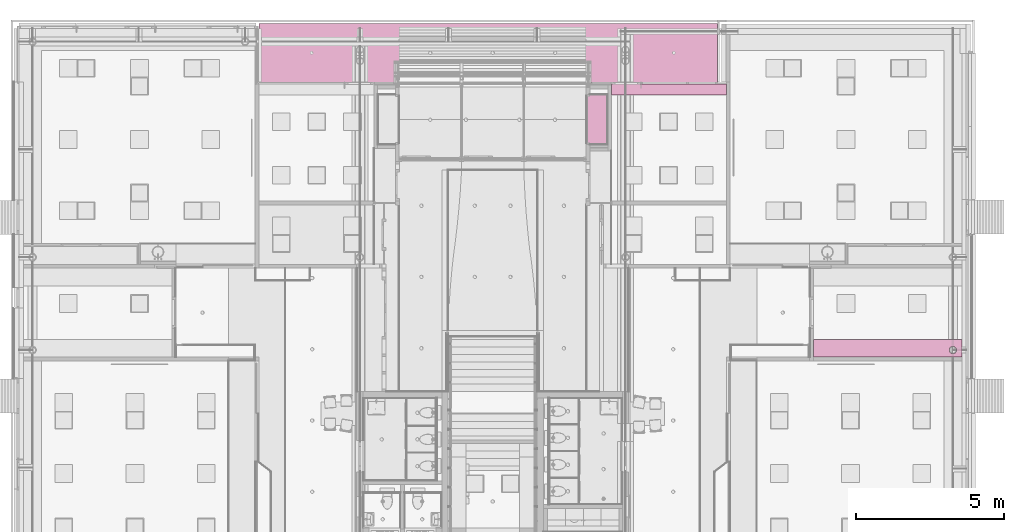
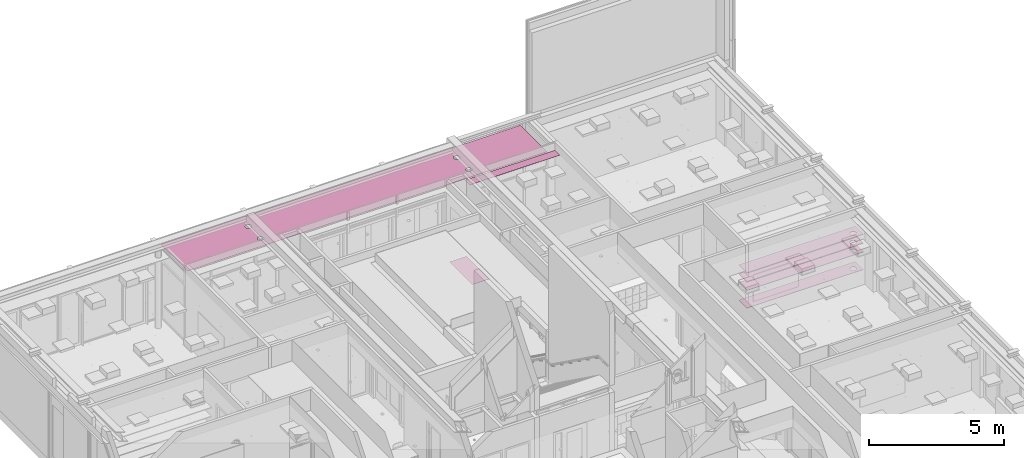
# One storey, part 328 of 347: 7 furnishings.
"""IFC2X3 building model written with IfcOpenShell, lengths in millimetres."""

import ifcopenshell
import ifcopenshell.guid

model = None  # the IFC model being written
_history = None  # IfcOwnerHistory: only IFC2X3 demands one
_inside = {}  # id of a spatial element -> (the spatial element, [elements in it])
_under = {}  # id of a project, library or spatial element -> (it, [spatial elements below it])
_declared = {}  # id of a project -> (the project, [libraries it declares])
_typed = {}  # id of a type object -> (the type object, [elements of that type])
_made_of = {}  # id of a material, layer set ... -> (it, [elements and type objects made of it])


def new_model(schema):
    """Start an empty IFC model of exactly this schema.

    Asked for "IFC4X3", IfcOpenShell would pick the latest addendum, in which some entities
    have other attributes; the version numbers below select the first issue.
    IFC2X3 requires an IfcOwnerHistory on every rooted entity: one is made here for all.
    """
    global model, _history
    if schema == "IFC4X3":
        model = ifcopenshell.file(schema_version=(4, 3, 0, 0))
    else:
        model = ifcopenshell.file(schema=schema)
    _inside.clear()
    _under.clear()
    _declared.clear()
    _typed.clear()
    _made_of.clear()
    _history = None
    if model.schema == "IFC2X3":
        org = make("IfcOrganization", Name="unknown")
        user = make(
            "IfcPersonAndOrganization",
            ThePerson=make("IfcPerson", FamilyName="unknown"),
            TheOrganization=org,
        )
        app = make(
            "IfcApplication",
            ApplicationDeveloper=org,
            Version="unknown",
            ApplicationFullName="unknown",
            ApplicationIdentifier="unknown",
        )
        _history = make(
            "IfcOwnerHistory",
            OwningUser=user,
            OwningApplication=app,
            ChangeAction="ADDED",
            CreationDate=0,
        )
    return model


def make(cls, **values):
    """One entity of the class cls with the attributes given. An attribute that is None is left unset."""
    return model.create_entity(
        cls, **{name: value for name, value in values.items() if value is not None}
    )


def entity(cls, *values):
    """Any entity or typed value of the class cls, its attributes in the order of the schema. None: left unset."""
    e = model.create_entity(cls)
    for i, value in enumerate(values):
        if value is not None:
            e[i] = value
    return e


def rooted(cls, **values):
    """An entity with a GlobalId (a new one), such as an element, a storey or a relation."""
    return make(cls, GlobalId=ifcopenshell.guid.new(), OwnerHistory=_history, **values)


def si_unit(unit_type, name, prefix=None):
    """IfcSIUnit, for example si_unit("LENGTHUNIT", "METRE", prefix="MILLI")."""
    return make("IfcSIUnit", UnitType=unit_type, Prefix=prefix, Name=name)


def converted_unit(unit_type, name, factor, base, dimensions=None, offset=None):
    """IfcConversionBasedUnit, such as the inch: factor (a typed value) times the base unit."""
    return make(
        "IfcConversionBasedUnit"
        if offset is None
        else "IfcConversionBasedUnitWithOffset",
        ConversionOffset=offset,
        Dimensions=None
        if dimensions is None
        else entity("IfcDimensionalExponents", *dimensions),
        UnitType=unit_type,
        Name=name,
        ConversionFactor=make(
            "IfcMeasureWithUnit", ValueComponent=factor, UnitComponent=base
        ),
    )


def derived_unit(unit_type, elements):
    """IfcDerivedUnit: a product of units, each with its exponent."""
    return make(
        "IfcDerivedUnit",
        Elements=[
            make("IfcDerivedUnitElement", Unit=unit, Exponent=power)
            for unit, power in elements
        ],
        UnitType=unit_type,
    )


def money_unit(currency):
    """IfcMonetaryUnit."""
    return make("IfcMonetaryUnit", Currency=currency)


def assignment(units):
    """IfcUnitAssignment: the units of a project."""
    return None if units is None else make("IfcUnitAssignment", Units=units)


def point(xyz):
    """IfcCartesianPoint."""
    return None if xyz is None else make("IfcCartesianPoint", Coordinates=xyz)


def direction(xyz):
    """IfcDirection."""
    return None if xyz is None else make("IfcDirection", DirectionRatios=xyz)


def frame(location, z_axis=None, x_axis=None):
    """IfcAxis2Placement3D, a coordinate frame: its origin and axes. An axis left out is left unset."""
    return make(
        "IfcAxis2Placement3D",
        Location=point(location),
        Axis=direction(z_axis),
        RefDirection=direction(x_axis),
    )


def origin_with_axes():
    """The frame at (0, 0, 0) with the z axis (0, 0, 1) and the x axis (1, 0, 0) written out."""
    return frame((0.0, 0.0, 0.0), z_axis=(0.0, 0.0, 1.0), x_axis=(1.0, 0.0, 0.0))


def place(relative_to, where):
    """IfcLocalPlacement: puts the frame where relative to a parent placement (None: the world)."""
    return make(
        "IfcLocalPlacement", PlacementRelTo=relative_to, RelativePlacement=where
    )


def context(
    kind, dimensions, precision=None, world=None, true_north=None, identifier=None
):
    """IfcGeometricRepresentationContext, for example the 3D "Model" context."""
    return make(
        "IfcGeometricRepresentationContext",
        ContextIdentifier=identifier,
        ContextType=kind,
        CoordinateSpaceDimension=dimensions,
        Precision=precision,
        WorldCoordinateSystem=world,
        TrueNorth=true_north,
    )


def subcontext(parent, identifier, kind, view, scale=None):
    """IfcGeometricRepresentationSubContext, for example "Body" below "Model"."""
    return make(
        "IfcGeometricRepresentationSubContext",
        ContextIdentifier=identifier,
        ContextType=kind,
        ParentContext=parent,
        TargetScale=scale,
        TargetView=view,
    )


def project(units=None, contexts=None):
    """IfcProject with its units and contexts."""
    return rooted(
        "IfcProject",
        Name="project",
        RepresentationContexts=contexts,
        UnitsInContext=assignment(units),
    )


def spatial(cls, under=None, at=None, **own):
    """A site, building, storey or space (cls), placed at a placement, below another one or the project."""
    s = rooted(cls, ObjectPlacement=at, **own)
    if under is not None:
        _under.setdefault(under.id(), (under, []))[1].append(s)
    return s


def faces_of(points, faces, orient=None, outer=None):
    """IfcFace entities. A face is a list of loops; a loop is a list of indices into points, from 0.

    orient and outer hold one flag for each loop. By default every Orientation is true, the
    first loop of a face is its IfcFaceOuterBound and the others are IfcFaceBound.
    """
    made = []
    for i, loops in enumerate(faces):
        bounds = []
        for j, loop in enumerate(loops):
            is_outer = j == 0 if outer is None else outer[i][j]
            bounds.append(
                make(
                    "IfcFaceOuterBound" if is_outer else "IfcFaceBound",
                    Bound=make("IfcPolyLoop", Polygon=[points[k] for k in loop]),
                    Orientation=True if orient is None else orient[i][j],
                )
            )
        made.append(make("IfcFace", Bounds=bounds))
    return made


def faceted_brep(points, faces, orient=None, outer=None, voids=None):
    """IfcFacetedBrep: a solid bounded by flat faces; with voids (closed shells), ...WithVoids."""
    shared = [point(p) for p in points]
    hull = make("IfcClosedShell", CfsFaces=faces_of(shared, faces, orient, outer))
    if voids is None:
        return make("IfcFacetedBrep", Outer=hull)
    return make(
        "IfcFacetedBrepWithVoids",
        Outer=hull,
        Voids=[
            make(cls, CfsFaces=faces_of(shared, fs, o, b)) for cls, fs, o, b in voids
        ],
    )


def shape(context_of_items, identifier, shape_type, items):
    """IfcShapeRepresentation: the items that make up one representation, for example the "Body"."""
    return make(
        "IfcShapeRepresentation",
        ContextOfItems=context_of_items,
        RepresentationIdentifier=identifier,
        RepresentationType=shape_type,
        Items=items,
    )


def material(Name=None, Category=None):
    """IfcMaterial."""
    return make("IfcMaterial", Name=Name, Category=Category)


def made_of(thing, what):
    """Note that an element or type object is made of a material, layer set ...; save() writes the relation."""
    if what is not None:
        _made_of.setdefault(what.id(), (what, []))[1].append(thing)
    return thing


def type_object(cls, material=None, **own):
    """A type object (cls), such as IfcWallType, which elements share."""
    return made_of(rooted(cls, **own), material)


def element(
    cls,
    number,
    at=None,
    inside=None,
    cuts=None,
    type_object=None,
    material=None,
    context=None,
    identifier="Body",
    shape_type=None,
    held_by="IfcProductDefinitionShape",
    body=None,
    shapes=None,
    **own,
):
    """One element of the class cls, such as IfcWall. Its Tag is "e" and its number.

    at: its placement. inside: the storey or other place that contains it. cuts: it is an
    opening in that element (IfcRelVoidsElement). A single representation is given by context,
    identifier, shape_type and body (its items); several are given by shapes. held_by: the class
    of the entity that holds the representations. save() writes the other relations.
    """
    e = rooted(cls, Tag="e%d" % number, ObjectPlacement=at, **own)
    if body is not None:
        shapes = [shape(context, identifier, shape_type, body)]
    if shapes is not None:
        e.Representation = make(held_by, Representations=shapes)
    if inside is not None:
        _inside.setdefault(inside.id(), (inside, []))[1].append(e)
    if cuts is not None:
        rooted(
            "IfcRelVoidsElement", RelatingBuildingElement=cuts, RelatedOpeningElement=e
        )
    if type_object is not None:
        _typed.setdefault(type_object.id(), (type_object, []))[1].append(e)
    return made_of(e, material)


def aggregate(whole, parts):
    """IfcRelAggregates: a whole, such as a stair, and the parts it consists of."""
    return rooted("IfcRelAggregates", RelatingObject=whole, RelatedObjects=parts)


def save(model, path):
    """Write the relations noted so far, then the file.

    IfcRelAggregates (storeys below a building ...), IfcRelContainedInSpatialStructure (elements
    in a storey), IfcRelDefinesByType, IfcRelAssociatesMaterial and IfcRelDeclares: one each for
    every whole, place, type object, material and project.
    """
    for whole, parts in _under.values():
        aggregate(whole, parts)
    for where, things in _inside.values():
        rooted(
            "IfcRelContainedInSpatialStructure",
            RelatedElements=things,
            RelatingStructure=where,
        )
    for kind, things in _typed.values():
        rooted("IfcRelDefinesByType", RelatedObjects=things, RelatingType=kind)
    for what, things in _made_of.values():
        rooted("IfcRelAssociatesMaterial", RelatedObjects=things, RelatingMaterial=what)
    for by, libraries in _declared.values():
        rooted("IfcRelDeclares", RelatingContext=by, RelatedDefinitions=libraries)
    model.write(path)


model = new_model("IFC2X3")

# Units and contexts
model_context = context("Model", 3, precision=0.01, world=origin_with_axes(), true_north=direction((0.0, 1.0)))
plan_context = context("Plan", 3, precision=0.01, world=origin_with_axes(), true_north=direction((0.0, 1.0)))
body_context = subcontext(model_context, "Body", "Model", "MODEL_VIEW")
ifc_project = project(units=[si_unit("LENGTHUNIT", "METRE", prefix="MILLI"), si_unit("AREAUNIT", "SQUARE_METRE"), si_unit("VOLUMEUNIT", "CUBIC_METRE"), converted_unit("PLANEANGLEUNIT", "DEGREE", entity("IfcPlaneAngleMeasure", 0.0174532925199), si_unit("PLANEANGLEUNIT", "RADIAN"), dimensions=[0, 0, 0, 0, 0, 0, 0]), money_unit("EUR"), converted_unit("TIMEUNIT", "Year", entity("IfcTimeMeasure", 31556926.0), si_unit("TIMEUNIT", "SECOND"), dimensions=[0, 0, 1, 0, 0, 0, 0]), si_unit("MASSUNIT", "GRAM", prefix="KILO"), si_unit("THERMODYNAMICTEMPERATUREUNIT", "DEGREE_CELSIUS"), si_unit("LUMINOUSINTENSITYUNIT", "LUMEN"), si_unit("ENERGYUNIT", "JOULE", prefix="MEGA"), derived_unit("THERMALCONDUCTANCEUNIT", [(si_unit("POWERUNIT", "WATT"), 1), (si_unit("LENGTHUNIT", "METRE"), -1), (si_unit("THERMODYNAMICTEMPERATUREUNIT", "KELVIN"), -1)]), derived_unit("SPECIFICHEATCAPACITYUNIT", [(si_unit("ENERGYUNIT", "JOULE"), 1), (si_unit("MASSUNIT", "GRAM", prefix="KILO"), -1), (si_unit("THERMODYNAMICTEMPERATUREUNIT", "KELVIN"), -1)]), derived_unit("MASSDENSITYUNIT", [(si_unit("MASSUNIT", "GRAM", prefix="KILO"), 1), (si_unit("VOLUMEUNIT", "CUBIC_METRE"), -1)])], contexts=[model_context, plan_context])

# Site, building, storey
site_placement = place(None, origin_with_axes())
site = spatial("IfcSite", under=ifc_project, at=site_placement, Name="Site", CompositionType="ELEMENT")
building_placement = place(site_placement, origin_with_axes())
building = spatial("IfcBuilding", under=site, at=building_placement, Name="Naam gebouw", CompositionType="ELEMENT")
storey_placement = place(building_placement, origin_with_axes())
storey = spatial("IfcBuildingStorey", under=building, at=storey_placement, Name="begane grond", CompositionType="ELEMENT", Elevation=0.0)

# Furnishings
ifc_material_1 = material(Name="ALG - LICHTE SCHEIDINGSWAND")
furniture_type_1 = type_object("IfcFurnitureType", Name="44 koof plaf 50", AssemblyPlace="NOTDEFINED")
furnishing_1_placement = place(storey_placement, frame((44075.0, 44791.0, 3200.0), z_axis=(0.0, 0.0, 1.0), x_axis=(1.0, 0.0, 0.0)))
element("IfcFurnishingElement", 1, at=furnishing_1_placement, inside=storey, type_object=furniture_type_1, material=ifc_material_1, Name="72_75 vaste inrichting", ObjectType="SHELF", context=body_context, shape_type="Brep", body=[
    faceted_brep([(3874.99674359, 0.0, 12.0), (0.0, 0.0, 12.0), (0.0, 0.0, 0.0), (3874.99674359, 0.0, 0.0), (3874.99674359, 362.0, 12.0), (0.0, 362.0, 12.0), (0.0, 362.0, 0.0), (3874.99674359, 362.0, 0.0)], [[[0, 1, 2, 3]], [[4, 5, 1, 0]], [[1, 5, 6, 2]], [[7, 3, 2, 6]], [[4, 0, 3, 7]], [[5, 4, 7, 6]]]),
])
furnishing_2_placement = place(storey_placement, frame((32200.0, 45215.0, 3200.0), z_axis=(0.0, 0.0, 1.0), x_axis=(1.0, 0.0, 0.0)))
element("IfcFurnishingElement", 2, at=furnishing_2_placement, inside=storey, type_object=furniture_type_1, material=ifc_material_1, Name="72_75 vaste inrichting", ObjectType="SHELF", context=body_context, shape_type="Brep", body=[
    faceted_brep([(0.0, 1992.0000219, 0.0), (15444.9999691, 1992.0000219, 0.0), (15444.9999691, 0.0, 0.0), (0.0, 0.0, 0.0), (3500.57889873, 379.994061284, 0.0), (3515.1434441, 403.373416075, 0.0), (3524.18493726, 429.435483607, 0.0), (3527.25, 456.873402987, 0.0), (3524.18493726, 484.311322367, 0.0), (3515.1434441, 510.373389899, 0.0), (3500.57889873, 533.75274469, 0.0), (3481.22162828, 553.277048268, 0.0), (3458.04228711, 567.967270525, 0.0), (3432.20318418, 577.086782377, 0.0), (3405.0, 580.178293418, 0.0), (3377.79681582, 577.086782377, 0.0), (3351.95771289, 567.967270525, 0.0), (3328.77837172, 553.277048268, 0.0), (3309.42110127, 533.75274469, 0.0), (3294.8565559, 510.373389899, 0.0), (3285.81506274, 484.311322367, 0.0), (3282.75, 456.873402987, 0.0), (3285.81506274, 429.435483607, 0.0), (3294.8565559, 403.373416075, 0.0), (3309.42110127, 379.994061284, 0.0), (3328.77837172, 360.469757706, 0.0), (3351.95771289, 345.779535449, 0.0), (3377.79681582, 336.660023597, 0.0), (3405.0, 333.568512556, 0.0), (3432.20318418, 336.660023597, 0.0), (3458.04228711, 345.779535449, 0.0), (3481.22162828, 360.469757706, 0.0), (3500.57889873, 1284.58843599, 0.0), (3515.1434441, 1307.96779078, 0.0), (3524.18493726, 1334.02985831, 0.0), (3527.25, 1361.46777769, 0.0), (3524.18493726, 1388.90569707, 0.0), (3515.1434441, 1414.9677646, 0.0), (3500.57889873, 1438.3471194, 0.0), (3481.22162828, 1457.87142297, 0.0), (3458.04228711, 1472.56164523, 0.0), (3432.20318418, 1481.68115708, 0.0), (3405.0, 1484.77266812, 0.0), (3377.79681582, 1481.68115708, 0.0), (3351.95771289, 1472.56164523, 0.0), (3328.77837172, 1457.87142297, 0.0), (3309.42110127, 1438.3471194, 0.0), (3294.8565559, 1414.9677646, 0.0), (3285.81506274, 1388.90569707, 0.0), (3282.75, 1361.46777769, 0.0), (3285.81506274, 1334.02985831, 0.0), (3294.8565559, 1307.96779078, 0.0), (3309.42110127, 1284.58843599, 0.0), (3328.77837172, 1265.06413241, 0.0), (3351.95771289, 1250.37391015, 0.0), (3377.79681582, 1241.2543983, 0.0), (3405.0, 1238.16288726, 0.0), (3432.20318418, 1241.2543983, 0.0), (3458.04228711, 1250.37391015, 0.0), (3481.22162828, 1265.06413241, 0.0), (12440.5788987, 379.994061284, 0.0), (12455.1434441, 403.373416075, 0.0), (12464.1849373, 429.435483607, 0.0), (12467.25, 456.873402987, 0.0), (12464.1849373, 484.311322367, 0.0), (12455.1434441, 510.373389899, 0.0), (12440.5788987, 533.75274469, 0.0), (12421.2216283, 553.277048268, 0.0), (12398.0422871, 567.967270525, 0.0), (12372.2031842, 577.086782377, 0.0), (12345.0, 580.178293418, 0.0), (12317.7968158, 577.086782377, 0.0), (12291.9577129, 567.967270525, 0.0), (12268.7783717, 553.277048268, 0.0), (12249.4211013, 533.75274469, 0.0), (12234.8565559, 510.373389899, 0.0), (12225.8150627, 484.311322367, 0.0), (12222.75, 456.873402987, 0.0), (12225.8150627, 429.435483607, 0.0), (12234.8565559, 403.373416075, 0.0), (12249.4211013, 379.994061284, 0.0), (12268.7783717, 360.469757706, 0.0), (12291.9577129, 345.779535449, 0.0), (12317.7968158, 336.660023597, 0.0), (12345.0, 333.568512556, 0.0), (12372.2031842, 336.660023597, 0.0), (12398.0422871, 345.779535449, 0.0), (12421.2216283, 360.469757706, 0.0), (12440.5788987, 1284.58843599, 0.0), (12455.1434441, 1307.96779078, 0.0), (12464.1849373, 1334.02985831, 0.0), (12467.25, 1361.46777769, 0.0), (12464.1849373, 1388.90569707, 0.0), (12455.1434441, 1414.9677646, 0.0), (12440.5788987, 1438.3471194, 0.0), (12421.2216283, 1457.87142297, 0.0), (12398.0422871, 1472.56164523, 0.0), (12372.2031842, 1481.68115708, 0.0), (12345.0, 1484.77266812, 0.0), (12317.7968158, 1481.68115708, 0.0), (12291.9577129, 1472.56164523, 0.0), (12268.7783717, 1457.87142297, 0.0), (12249.4211013, 1438.3471194, 0.0), (12234.8565559, 1414.9677646, 0.0), (12225.8150627, 1388.90569707, 0.0), (12222.75, 1361.46777769, 0.0), (12225.8150627, 1334.02985831, 0.0), (12234.8565559, 1307.96779078, 0.0), (12249.4211013, 1284.58843599, 0.0), (12268.7783717, 1265.06413241, 0.0), (12291.9577129, 1250.37391015, 0.0), (12317.7968158, 1241.2543983, 0.0), (12345.0, 1238.16288726, 0.0), (12372.2031842, 1241.2543983, 0.0), (12398.0422871, 1250.37391015, 0.0), (12421.2216283, 1265.06413241, 0.0), (0.0, 1992.0000219, 9.99999897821), (15444.9999473, 1992.0000219, 9.99999897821), (15444.9999691, 1961.99999662, 10.0), (15444.9999183, 1822.0000219, 10.0), (15444.9999183, 1822.00001157, 11.9999999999), (15444.9999691, 0.0, 12.0), (0.0, 0.0, 12.0), (0.0, 1822.00001157, 12.0), (0.0, 1822.0000219, 10.0), (0.0, 1961.99999662, 10.0), (3515.1434441, 401.793586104, 11.9999999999), (3500.57889873, 378.414231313, 11.9999999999), (3524.18493726, 427.855653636, 11.9999999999), (3527.25, 455.293573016, 11.9999999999), (3524.18493726, 482.731492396, 11.9999999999), (3515.1434441, 508.793559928, 11.9999999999), (3500.57889873, 532.172914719, 11.9999999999), (3481.22162828, 551.697218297, 11.9999999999), (3458.04228711, 566.387440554, 11.9999999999), (3432.20318418, 575.506952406, 11.9999999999), (3405.0, 578.598463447, 11.9999999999), (3377.79681582, 575.506952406, 11.9999999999), (3351.95771289, 566.387440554, 11.9999999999), (3328.77837172, 551.697218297, 11.9999999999), (3309.42110127, 532.172914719, 11.9999999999), (3294.8565559, 508.793559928, 11.9999999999), (3285.81506274, 482.731492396, 11.9999999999), (3282.75, 455.293573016, 11.9999999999), (3285.81506274, 427.855653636, 11.9999999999), (3294.8565559, 401.793586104, 11.9999999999), (3309.42110127, 378.414231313, 11.9999999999), (3328.77837172, 358.889927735, 11.9999999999), (3351.95771289, 344.199705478, 11.9999999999), (3377.79681582, 335.080193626, 11.9999999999), (3405.0, 331.988682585, 11.9999999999), (3432.20318418, 335.080193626, 11.9999999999), (3458.04228711, 344.199705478, 11.9999999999), (3481.22162828, 358.889927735, 11.9999999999), (3500.57889873, 1286.16826596, 11.9999999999), (3515.1434441, 1309.54762075, 11.9999999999), (3524.18493726, 1335.60968828, 11.9999999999), (3527.25, 1363.04760766, 11.9999999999), (3524.18493726, 1390.48552704, 11.9999999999), (3515.1434441, 1416.54759457, 11.9999999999), (3500.57889873, 1439.92694937, 11.9999999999), (3481.22162828, 1459.45125294, 11.9999999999), (3458.04228711, 1474.1414752, 11.9999999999), (3432.20318418, 1483.26098705, 11.9999999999), (3405.0, 1486.35249809, 11.9999999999), (3377.79681582, 1483.26098705, 11.9999999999), (3351.95771289, 1474.1414752, 11.9999999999), (3328.77837172, 1459.45125294, 11.9999999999), (3309.42110127, 1439.92694937, 11.9999999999), (3294.8565559, 1416.54759457, 11.9999999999), (3285.81506274, 1390.48552704, 11.9999999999), (3282.75, 1363.04760766, 11.9999999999), (3285.81506274, 1335.60968828, 11.9999999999), (3294.8565559, 1309.54762075, 11.9999999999), (3309.42110127, 1286.16826596, 11.9999999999), (3328.77837172, 1266.64396238, 11.9999999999), (3351.95771289, 1251.95374012, 11.9999999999), (3377.79681582, 1242.83422827, 11.9999999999), (3405.0, 1239.74271723, 11.9999999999), (3432.20318418, 1242.83422827, 11.9999999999), (3458.04228711, 1251.95374012, 11.9999999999), (3481.22162828, 1266.64396238, 11.9999999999), (12455.1434441, 401.793586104, 11.9999999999), (12440.5788987, 378.414231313, 11.9999999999), (12464.1849373, 427.855653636, 11.9999999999), (12467.25, 455.293573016, 11.9999999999), (12464.1849373, 482.731492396, 11.9999999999), (12455.1434441, 508.793559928, 11.9999999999), (12440.5788987, 532.172914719, 11.9999999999), (12421.2216283, 551.697218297, 11.9999999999), (12398.0422871, 566.387440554, 11.9999999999), (12372.2031842, 575.506952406, 11.9999999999), (12345.0, 578.598463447, 11.9999999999), (12317.7968158, 575.506952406, 11.9999999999), (12291.9577129, 566.387440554, 11.9999999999), (12268.7783717, 551.697218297, 11.9999999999), (12249.4211013, 532.172914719, 11.9999999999), (12234.8565559, 508.793559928, 11.9999999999), (12225.8150627, 482.731492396, 11.9999999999), (12222.75, 455.293573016, 11.9999999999), (12225.8150627, 427.855653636, 11.9999999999), (12234.8565559, 401.793586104, 11.9999999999), (12249.4211013, 378.414231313, 11.9999999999), (12268.7783717, 358.889927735, 11.9999999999), (12291.9577129, 344.199705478, 11.9999999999), (12317.7968158, 335.080193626, 11.9999999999), (12345.0, 331.988682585, 11.9999999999), (12372.2031842, 335.080193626, 11.9999999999), (12398.0422871, 344.199705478, 11.9999999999), (12421.2216283, 358.889927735, 11.9999999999), (12440.5788987, 1286.16826596, 11.9999999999), (12455.1434441, 1309.54762075, 11.9999999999), (12464.1849373, 1335.60968828, 11.9999999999), (12467.25, 1363.04760766, 11.9999999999), (12464.1849373, 1390.48552704, 11.9999999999), (12455.1434441, 1416.54759457, 11.9999999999), (12440.5788987, 1439.92694937, 11.9999999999), (12421.2216283, 1459.45125294, 11.9999999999), (12398.0422871, 1474.1414752, 11.9999999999), (12372.2031842, 1483.26098705, 11.9999999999), (12345.0, 1486.35249809, 11.9999999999), (12317.7968158, 1483.26098705, 11.9999999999), (12291.9577129, 1474.1414752, 11.9999999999), (12268.7783717, 1459.45125294, 11.9999999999), (12249.4211013, 1439.92694937, 11.9999999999), (12234.8565559, 1416.54759457, 11.9999999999), (12225.8150627, 1390.48552704, 11.9999999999), (12222.75, 1363.04760766, 11.9999999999), (12225.8150627, 1335.60968828, 11.9999999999), (12234.8565559, 1309.54762075, 11.9999999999), (12249.4211013, 1286.16826596, 11.9999999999), (12268.7783717, 1266.64396238, 11.9999999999), (12291.9577129, 1251.95374012, 11.9999999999), (12317.7968158, 1242.83422827, 11.9999999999), (12345.0, 1239.74271723, 11.9999999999), (12372.2031842, 1242.83422827, 11.9999999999), (12398.0422871, 1251.95374012, 11.9999999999), (12421.2216283, 1266.64396238, 11.9999999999)], [[[0, 1, 2, 3], [4, 5, 6, 7, 8, 9, 10, 11, 12, 13, 14, 15, 16, 17, 18, 19, 20, 21, 22, 23, 24, 25, 26, 27, 28, 29, 30, 31], [32, 33, 34, 35, 36, 37, 38, 39, 40, 41, 42, 43, 44, 45, 46, 47, 48, 49, 50, 51, 52, 53, 54, 55, 56, 57, 58, 59], [60, 61, 62, 63, 64, 65, 66, 67, 68, 69, 70, 71, 72, 73, 74, 75, 76, 77, 78, 79, 80, 81, 82, 83, 84, 85, 86, 87], [88, 89, 90, 91, 92, 93, 94, 95, 96, 97, 98, 99, 100, 101, 102, 103, 104, 105, 106, 107, 108, 109, 110, 111, 112, 113, 114, 115]], [[1, 0, 116, 117]], [[117, 118, 119, 120, 121, 2, 1]], [[2, 121, 122, 3]], [[123, 124, 125, 116, 0, 3, 122]], [[126, 5, 4, 127]], [[128, 6, 5, 126]], [[129, 7, 6, 128]], [[130, 8, 7, 129]], [[131, 9, 8, 130]], [[132, 10, 9, 131]], [[133, 11, 10, 132]], [[134, 12, 11, 133]], [[135, 13, 12, 134]], [[136, 14, 13, 135]], [[137, 15, 14, 136]], [[138, 16, 15, 137]], [[139, 17, 16, 138]], [[140, 18, 17, 139]], [[141, 19, 18, 140]], [[142, 20, 19, 141]], [[143, 21, 20, 142]], [[144, 22, 21, 143]], [[145, 23, 22, 144]], [[146, 24, 23, 145]], [[147, 25, 24, 146]], [[148, 26, 25, 147]], [[149, 27, 26, 148]], [[150, 28, 27, 149]], [[151, 29, 28, 150]], [[152, 30, 29, 151]], [[153, 31, 30, 152]], [[127, 4, 31, 153]], [[32, 154, 155, 33]], [[33, 155, 156, 34]], [[34, 156, 157, 35]], [[35, 157, 158, 36]], [[36, 158, 159, 37]], [[37, 159, 160, 38]], [[38, 160, 161, 39]], [[39, 161, 162, 40]], [[40, 162, 163, 41]], [[41, 163, 164, 42]], [[42, 164, 165, 43]], [[43, 165, 166, 44]], [[44, 166, 167, 45]], [[45, 167, 168, 46]], [[46, 168, 169, 47]], [[47, 169, 170, 48]], [[48, 170, 171, 49]], [[49, 171, 172, 50]], [[50, 172, 173, 51]], [[51, 173, 174, 52]], [[52, 174, 175, 53]], [[53, 175, 176, 54]], [[54, 176, 177, 55]], [[55, 177, 178, 56]], [[56, 178, 179, 57]], [[57, 179, 180, 58]], [[58, 180, 181, 59]], [[59, 181, 154, 32]], [[182, 61, 60, 183]], [[184, 62, 61, 182]], [[185, 63, 62, 184]], [[186, 64, 63, 185]], [[187, 65, 64, 186]], [[188, 66, 65, 187]], [[189, 67, 66, 188]], [[190, 68, 67, 189]], [[191, 69, 68, 190]], [[192, 70, 69, 191]], [[193, 71, 70, 192]], [[194, 72, 71, 193]], [[195, 73, 72, 194]], [[196, 74, 73, 195]], [[197, 75, 74, 196]], [[198, 76, 75, 197]], [[199, 77, 76, 198]], [[200, 78, 77, 199]], [[201, 79, 78, 200]], [[202, 80, 79, 201]], [[203, 81, 80, 202]], [[204, 82, 81, 203]], [[205, 83, 82, 204]], [[206, 84, 83, 205]], [[207, 85, 84, 206]], [[208, 86, 85, 207]], [[209, 87, 86, 208]], [[183, 60, 87, 209]], [[88, 210, 211, 89]], [[89, 211, 212, 90]], [[90, 212, 213, 91]], [[91, 213, 214, 92]], [[92, 214, 215, 93]], [[93, 215, 216, 94]], [[94, 216, 217, 95]], [[95, 217, 218, 96]], [[96, 218, 219, 97]], [[97, 219, 220, 98]], [[98, 220, 221, 99]], [[99, 221, 222, 100]], [[100, 222, 223, 101]], [[101, 223, 224, 102]], [[102, 224, 225, 103]], [[103, 225, 226, 104]], [[104, 226, 227, 105]], [[105, 227, 228, 106]], [[106, 228, 229, 107]], [[107, 229, 230, 108]], [[108, 230, 231, 109]], [[109, 231, 232, 110]], [[110, 232, 233, 111]], [[111, 233, 234, 112]], [[112, 234, 235, 113]], [[113, 235, 236, 114]], [[114, 236, 237, 115]], [[115, 237, 210, 88]], [[116, 125, 118, 117]], [[125, 124, 119, 118]], [[119, 124, 123, 120]], [[122, 121, 120, 123], [132, 131, 130, 129, 128, 126, 127, 153, 152, 151, 150, 149, 148, 147, 146, 145, 144, 143, 142, 141, 140, 139, 138, 137, 136, 135, 134, 133], [160, 159, 158, 157, 156, 155, 154, 181, 180, 179, 178, 177, 176, 175, 174, 173, 172, 171, 170, 169, 168, 167, 166, 165, 164, 163, 162, 161], [188, 187, 186, 185, 184, 182, 183, 209, 208, 207, 206, 205, 204, 203, 202, 201, 200, 199, 198, 197, 196, 195, 194, 193, 192, 191, 190, 189], [216, 215, 214, 213, 212, 211, 210, 237, 236, 235, 234, 233, 232, 231, 230, 229, 228, 227, 226, 225, 224, 223, 222, 221, 220, 219, 218, 217]]]),
])
ifc_material_2 = material(Name="Hout - Spaanplaat")
furniture_type_2 = type_object("IfcFurnitureType", Name="Hout - Spaanplaat 20", AssemblyPlace="NOTDEFINED")
furnishing_3_placement = place(storey_placement, frame((55875.000024, 35962.5, 1800.0), z_axis=(0.0, 0.0, 1.0), x_axis=(1.0, 0.0, 0.0)))
element("IfcFurnishingElement", 3, at=furnishing_3_placement, inside=storey, type_object=furniture_type_2, material=ifc_material_2, Name="72_73 vaste inrichting", ObjectType="SHELF", context=body_context, shape_type="Brep", body=[
    faceted_brep([(-5000.0, 600.0, -20.0), (0.0, 600.0, -20.0), (0.0, 0.0, -20.0), (-5000.0, 0.0, -20.0), (-204.421125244, 161.278371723, -20.0), (-189.856579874, 184.457712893, -20.0), (-180.815086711, 210.296815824, -20.0), (-177.750023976, 237.5, -20.0), (-180.815086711, 264.703184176, -20.0), (-189.856579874, 290.542287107, -20.0), (-204.421125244, 313.721628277, -20.0), (-223.778395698, 333.078898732, -20.0), (-246.957736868, 347.643444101, -20.0), (-272.796839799, 356.684937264, -20.0), (-300.000023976, 359.75, -20.0), (-327.203208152, 356.684937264, -20.0), (-353.042311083, 347.643444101, -20.0), (-376.221652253, 333.078898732, -20.0), (-395.578922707, 313.721628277, -20.0), (-410.143468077, 290.542287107, -20.0), (-419.18496124, 264.703184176, -20.0), (-422.250023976, 237.5, -20.0), (-419.18496124, 210.296815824, -20.0), (-410.143468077, 184.457712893, -20.0), (-395.578922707, 161.278371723, -20.0), (-376.221652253, 141.921101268, -20.0), (-353.042311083, 127.356555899, -20.0), (-327.203208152, 118.315062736, -20.0), (-300.000023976, 115.25, -20.0), (-272.796839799, 118.315062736, -20.0), (-246.957736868, 127.356555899, -20.0), (-223.778395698, 141.921101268, -20.0), (-5000.0, 600.0, 0.0), (0.0, 600.0, 0.0), (0.0, 0.0, 0.0), (-5000.0, 0.0, 0.0), (-204.421125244, 161.278371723, 0.0), (-189.856579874, 184.457712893, 0.0), (-180.815086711, 210.296815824, 0.0), (-177.750023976, 237.5, 0.0), (-180.815086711, 264.703184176, 0.0), (-189.856579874, 290.542287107, 0.0), (-204.421125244, 313.721628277, 0.0), (-223.778395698, 333.078898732, 0.0), (-246.957736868, 347.643444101, 0.0), (-272.796839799, 356.684937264, 0.0), (-300.000023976, 359.75, 0.0), (-327.203208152, 356.684937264, 0.0), (-353.042311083, 347.643444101, 0.0), (-376.221652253, 333.078898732, 0.0), (-395.578922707, 313.721628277, 0.0), (-410.143468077, 290.542287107, 0.0), (-419.18496124, 264.703184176, 0.0), (-422.250023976, 237.5, 0.0), (-419.18496124, 210.296815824, 0.0), (-410.143468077, 184.457712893, 0.0), (-395.578922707, 161.278371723, 0.0), (-376.221652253, 141.921101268, 0.0), (-353.042311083, 127.356555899, 0.0), (-327.203208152, 118.315062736, 0.0), (-300.000023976, 115.25, 0.0), (-272.796839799, 118.315062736, 0.0), (-246.957736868, 127.356555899, 0.0), (-223.778395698, 141.921101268, 0.0)], [[[0, 1, 2, 3], [4, 5, 6, 7, 8, 9, 10, 11, 12, 13, 14, 15, 16, 17, 18, 19, 20, 21, 22, 23, 24, 25, 26, 27, 28, 29, 30, 31]], [[32, 33, 1, 0]], [[33, 34, 2, 1]], [[34, 35, 3, 2]], [[35, 32, 0, 3]], [[4, 36, 37, 5]], [[5, 37, 38, 6]], [[6, 38, 39, 7]], [[7, 39, 40, 8]], [[8, 40, 41, 9]], [[9, 41, 42, 10]], [[10, 42, 43, 11]], [[11, 43, 44, 12]], [[12, 44, 45, 13]], [[13, 45, 46, 14]], [[14, 46, 47, 15]], [[15, 47, 48, 16]], [[16, 48, 49, 17]], [[17, 49, 50, 18]], [[18, 50, 51, 19]], [[19, 51, 52, 20]], [[20, 52, 53, 21]], [[21, 53, 54, 22]], [[22, 54, 55, 23]], [[23, 55, 56, 24]], [[24, 56, 57, 25]], [[25, 57, 58, 26]], [[26, 58, 59, 27]], [[27, 59, 60, 28]], [[28, 60, 61, 29]], [[29, 61, 62, 30]], [[30, 62, 63, 31]], [[31, 63, 36, 4]], [[32, 35, 34, 33], [42, 41, 40, 39, 38, 37, 36, 63, 62, 61, 60, 59, 58, 57, 56, 55, 54, 53, 52, 51, 50, 49, 48, 47, 46, 45, 44, 43]]]),
])
furnishing_4_placement = place(storey_placement, frame((55875.000024, 35962.5, 1400.0), z_axis=(0.0, 0.0, 1.0), x_axis=(1.0, 0.0, 0.0)))
element("IfcFurnishingElement", 4, at=furnishing_4_placement, inside=storey, type_object=furniture_type_2, material=ifc_material_2, Name="72_73 vaste inrichting", ObjectType="SHELF", context=body_context, shape_type="Brep", body=[
    faceted_brep([(-5000.0, 600.0, -20.0), (0.0, 600.0, -20.0), (0.0, 0.0, -20.0), (-5000.0, 0.0, -20.0), (-204.421125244, 161.278371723, -20.0), (-189.856579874, 184.457712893, -20.0), (-180.815086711, 210.296815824, -20.0), (-177.750023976, 237.5, -20.0), (-180.815086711, 264.703184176, -20.0), (-189.856579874, 290.542287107, -20.0), (-204.421125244, 313.721628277, -20.0), (-223.778395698, 333.078898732, -20.0), (-246.957736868, 347.643444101, -20.0), (-272.796839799, 356.684937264, -20.0), (-300.000023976, 359.75, -20.0), (-327.203208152, 356.684937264, -20.0), (-353.042311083, 347.643444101, -20.0), (-376.221652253, 333.078898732, -20.0), (-395.578922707, 313.721628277, -20.0), (-410.143468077, 290.542287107, -20.0), (-419.18496124, 264.703184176, -20.0), (-422.250023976, 237.5, -20.0), (-419.18496124, 210.296815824, -20.0), (-410.143468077, 184.457712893, -20.0), (-395.578922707, 161.278371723, -20.0), (-376.221652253, 141.921101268, -20.0), (-353.042311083, 127.356555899, -20.0), (-327.203208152, 118.315062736, -20.0), (-300.000023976, 115.25, -20.0), (-272.796839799, 118.315062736, -20.0), (-246.957736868, 127.356555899, -20.0), (-223.778395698, 141.921101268, -20.0), (-5000.0, 600.0, 0.0), (0.0, 600.0, 0.0), (0.0, 0.0, 0.0), (-5000.0, 0.0, 0.0), (-204.421125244, 161.278371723, 0.0), (-189.856579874, 184.457712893, 0.0), (-180.815086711, 210.296815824, 0.0), (-177.750023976, 237.5, 0.0), (-180.815086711, 264.703184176, 0.0), (-189.856579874, 290.542287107, 0.0), (-204.421125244, 313.721628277, 0.0), (-223.778395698, 333.078898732, 0.0), (-246.957736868, 347.643444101, 0.0), (-272.796839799, 356.684937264, 0.0), (-300.000023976, 359.75, 0.0), (-327.203208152, 356.684937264, 0.0), (-353.042311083, 347.643444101, 0.0), (-376.221652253, 333.078898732, 0.0), (-395.578922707, 313.721628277, 0.0), (-410.143468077, 290.542287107, 0.0), (-419.18496124, 264.703184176, 0.0), (-422.250023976, 237.5, 0.0), (-419.18496124, 210.296815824, 0.0), (-410.143468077, 184.457712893, 0.0), (-395.578922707, 161.278371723, 0.0), (-376.221652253, 141.921101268, 0.0), (-353.042311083, 127.356555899, 0.0), (-327.203208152, 118.315062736, 0.0), (-300.000023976, 115.25, 0.0), (-272.796839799, 118.315062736, 0.0), (-246.957736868, 127.356555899, 0.0), (-223.778395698, 141.921101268, 0.0)], [[[0, 1, 2, 3], [4, 5, 6, 7, 8, 9, 10, 11, 12, 13, 14, 15, 16, 17, 18, 19, 20, 21, 22, 23, 24, 25, 26, 27, 28, 29, 30, 31]], [[32, 33, 1, 0]], [[33, 34, 2, 1]], [[34, 35, 3, 2]], [[35, 32, 0, 3]], [[4, 36, 37, 5]], [[5, 37, 38, 6]], [[6, 38, 39, 7]], [[7, 39, 40, 8]], [[8, 40, 41, 9]], [[9, 41, 42, 10]], [[10, 42, 43, 11]], [[11, 43, 44, 12]], [[12, 44, 45, 13]], [[13, 45, 46, 14]], [[14, 46, 47, 15]], [[15, 47, 48, 16]], [[16, 48, 49, 17]], [[17, 49, 50, 18]], [[18, 50, 51, 19]], [[19, 51, 52, 20]], [[20, 52, 53, 21]], [[21, 53, 54, 22]], [[22, 54, 55, 23]], [[23, 55, 56, 24]], [[24, 56, 57, 25]], [[25, 57, 58, 26]], [[26, 58, 59, 27]], [[27, 59, 60, 28]], [[28, 60, 61, 29]], [[29, 61, 62, 30]], [[30, 62, 63, 31]], [[31, 63, 36, 4]], [[32, 35, 34, 33], [42, 41, 40, 39, 38, 37, 36, 63, 62, 61, 60, 59, 58, 57, 56, 55, 54, 53, 52, 51, 50, 49, 48, 47, 46, 45, 44, 43]]]),
])
furnishing_5_placement = place(storey_placement, frame((55875.000024, 35962.5, 2200.0), z_axis=(0.0, 0.0, 1.0), x_axis=(1.0, 0.0, 0.0)))
element("IfcFurnishingElement", 5, at=furnishing_5_placement, inside=storey, type_object=furniture_type_2, material=ifc_material_2, Name="72_73 vaste inrichting", ObjectType="SHELF", context=body_context, shape_type="Brep", body=[
    faceted_brep([(-5000.0, 600.0, -20.0), (0.0, 600.0, -20.0), (0.0, 0.0, -20.0), (-5000.0, 0.0, -20.0), (-204.421125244, 161.278371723, -20.0), (-189.856579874, 184.457712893, -20.0), (-180.815086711, 210.296815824, -20.0), (-177.750023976, 237.5, -20.0), (-180.815086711, 264.703184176, -20.0), (-189.856579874, 290.542287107, -20.0), (-204.421125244, 313.721628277, -20.0), (-223.778395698, 333.078898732, -20.0), (-246.957736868, 347.643444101, -20.0), (-272.796839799, 356.684937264, -20.0), (-300.000023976, 359.75, -20.0), (-327.203208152, 356.684937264, -20.0), (-353.042311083, 347.643444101, -20.0), (-376.221652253, 333.078898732, -20.0), (-395.578922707, 313.721628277, -20.0), (-410.143468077, 290.542287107, -20.0), (-419.18496124, 264.703184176, -20.0), (-422.250023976, 237.5, -20.0), (-419.18496124, 210.296815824, -20.0), (-410.143468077, 184.457712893, -20.0), (-395.578922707, 161.278371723, -20.0), (-376.221652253, 141.921101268, -20.0), (-353.042311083, 127.356555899, -20.0), (-327.203208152, 118.315062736, -20.0), (-300.000023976, 115.25, -20.0), (-272.796839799, 118.315062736, -20.0), (-246.957736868, 127.356555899, -20.0), (-223.778395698, 141.921101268, -20.0), (-5000.0, 600.0, 0.0), (0.0, 600.0, 0.0), (0.0, 0.0, 0.0), (-5000.0, 0.0, 0.0), (-204.421125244, 161.278371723, 0.0), (-189.856579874, 184.457712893, 0.0), (-180.815086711, 210.296815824, 0.0), (-177.750023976, 237.5, 0.0), (-180.815086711, 264.703184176, 0.0), (-189.856579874, 290.542287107, 0.0), (-204.421125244, 313.721628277, 0.0), (-223.778395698, 333.078898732, 0.0), (-246.957736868, 347.643444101, 0.0), (-272.796839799, 356.684937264, 0.0), (-300.000023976, 359.75, 0.0), (-327.203208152, 356.684937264, 0.0), (-353.042311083, 347.643444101, 0.0), (-376.221652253, 333.078898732, 0.0), (-395.578922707, 313.721628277, 0.0), (-410.143468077, 290.542287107, 0.0), (-419.18496124, 264.703184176, 0.0), (-422.250023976, 237.5, 0.0), (-419.18496124, 210.296815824, 0.0), (-410.143468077, 184.457712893, 0.0), (-395.578922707, 161.278371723, 0.0), (-376.221652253, 141.921101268, 0.0), (-353.042311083, 127.356555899, 0.0), (-327.203208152, 118.315062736, 0.0), (-300.000023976, 115.25, 0.0), (-272.796839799, 118.315062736, 0.0), (-246.957736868, 127.356555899, 0.0), (-223.778395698, 141.921101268, 0.0)], [[[0, 1, 2, 3], [4, 5, 6, 7, 8, 9, 10, 11, 12, 13, 14, 15, 16, 17, 18, 19, 20, 21, 22, 23, 24, 25, 26, 27, 28, 29, 30, 31]], [[32, 33, 1, 0]], [[33, 34, 2, 1]], [[34, 35, 3, 2]], [[35, 32, 0, 3]], [[4, 36, 37, 5]], [[5, 37, 38, 6]], [[6, 38, 39, 7]], [[7, 39, 40, 8]], [[8, 40, 41, 9]], [[9, 41, 42, 10]], [[10, 42, 43, 11]], [[11, 43, 44, 12]], [[12, 44, 45, 13]], [[13, 45, 46, 14]], [[14, 46, 47, 15]], [[15, 47, 48, 16]], [[16, 48, 49, 17]], [[17, 49, 50, 18]], [[18, 50, 51, 19]], [[19, 51, 52, 20]], [[20, 52, 53, 21]], [[21, 53, 54, 22]], [[22, 54, 55, 23]], [[23, 55, 56, 24]], [[24, 56, 57, 25]], [[25, 57, 58, 26]], [[26, 58, 59, 27]], [[27, 59, 60, 28]], [[28, 60, 61, 29]], [[29, 61, 62, 30]], [[30, 62, 63, 31]], [[31, 63, 36, 4]], [[32, 35, 34, 33], [42, 41, 40, 39, 38, 37, 36, 63, 62, 61, 60, 59, 58, 57, 56, 55, 54, 53, 52, 51, 50, 49, 48, 47, 46, 45, 44, 43]]]),
])
furnishing_6_placement = place(storey_placement, frame((55875.000024, 35962.5, 600.0), z_axis=(0.0, 0.0, 1.0), x_axis=(1.0, 0.0, 0.0)))
element("IfcFurnishingElement", 6, at=furnishing_6_placement, inside=storey, type_object=furniture_type_2, material=ifc_material_2, Name="72_73 vaste inrichting", ObjectType="SHELF", context=body_context, shape_type="Brep", body=[
    faceted_brep([(-5000.0, 600.0, -20.0), (0.0, 600.0, -20.0), (0.0, 0.0, -20.0), (-5000.0, 0.0, -20.0), (-204.421125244, 161.278371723, -20.0), (-189.856579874, 184.457712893, -20.0), (-180.815086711, 210.296815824, -20.0), (-177.750023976, 237.5, -20.0), (-180.815086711, 264.703184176, -20.0), (-189.856579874, 290.542287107, -20.0), (-204.421125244, 313.721628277, -20.0), (-223.778395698, 333.078898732, -20.0), (-246.957736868, 347.643444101, -20.0), (-272.796839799, 356.684937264, -20.0), (-300.000023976, 359.75, -20.0), (-327.203208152, 356.684937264, -20.0), (-353.042311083, 347.643444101, -20.0), (-376.221652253, 333.078898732, -20.0), (-395.578922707, 313.721628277, -20.0), (-410.143468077, 290.542287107, -20.0), (-419.18496124, 264.703184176, -20.0), (-422.250023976, 237.5, -20.0), (-419.18496124, 210.296815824, -20.0), (-410.143468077, 184.457712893, -20.0), (-395.578922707, 161.278371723, -20.0), (-376.221652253, 141.921101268, -20.0), (-353.042311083, 127.356555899, -20.0), (-327.203208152, 118.315062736, -20.0), (-300.000023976, 115.25, -20.0), (-272.796839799, 118.315062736, -20.0), (-246.957736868, 127.356555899, -20.0), (-223.778395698, 141.921101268, -20.0), (-5000.0, 600.0, 0.0), (0.0, 600.0, 0.0), (0.0, 0.0, 0.0), (-5000.0, 0.0, 0.0), (-204.421125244, 161.278371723, 0.0), (-189.856579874, 184.457712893, 0.0), (-180.815086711, 210.296815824, 0.0), (-177.750023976, 237.5, 0.0), (-180.815086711, 264.703184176, 0.0), (-189.856579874, 290.542287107, 0.0), (-204.421125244, 313.721628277, 0.0), (-223.778395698, 333.078898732, 0.0), (-246.957736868, 347.643444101, 0.0), (-272.796839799, 356.684937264, 0.0), (-300.000023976, 359.75, 0.0), (-327.203208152, 356.684937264, 0.0), (-353.042311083, 347.643444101, 0.0), (-376.221652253, 333.078898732, 0.0), (-395.578922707, 313.721628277, 0.0), (-410.143468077, 290.542287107, 0.0), (-419.18496124, 264.703184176, 0.0), (-422.250023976, 237.5, 0.0), (-419.18496124, 210.296815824, 0.0), (-410.143468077, 184.457712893, 0.0), (-395.578922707, 161.278371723, 0.0), (-376.221652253, 141.921101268, 0.0), (-353.042311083, 127.356555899, 0.0), (-327.203208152, 118.315062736, 0.0), (-300.000023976, 115.25, 0.0), (-272.796839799, 118.315062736, 0.0), (-246.957736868, 127.356555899, 0.0), (-223.778395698, 141.921101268, 0.0)], [[[0, 1, 2, 3], [4, 5, 6, 7, 8, 9, 10, 11, 12, 13, 14, 15, 16, 17, 18, 19, 20, 21, 22, 23, 24, 25, 26, 27, 28, 29, 30, 31]], [[32, 33, 1, 0]], [[33, 34, 2, 1]], [[34, 35, 3, 2]], [[35, 32, 0, 3]], [[4, 36, 37, 5]], [[5, 37, 38, 6]], [[6, 38, 39, 7]], [[7, 39, 40, 8]], [[8, 40, 41, 9]], [[9, 41, 42, 10]], [[10, 42, 43, 11]], [[11, 43, 44, 12]], [[12, 44, 45, 13]], [[13, 45, 46, 14]], [[14, 46, 47, 15]], [[15, 47, 48, 16]], [[16, 48, 49, 17]], [[17, 49, 50, 18]], [[18, 50, 51, 19]], [[19, 51, 52, 20]], [[20, 52, 53, 21]], [[21, 53, 54, 22]], [[22, 54, 55, 23]], [[23, 55, 56, 24]], [[24, 56, 57, 25]], [[25, 57, 58, 26]], [[26, 58, 59, 27]], [[27, 59, 60, 28]], [[28, 60, 61, 29]], [[29, 61, 62, 30]], [[30, 62, 63, 31]], [[31, 63, 36, 4]], [[32, 35, 34, 33], [42, 41, 40, 39, 38, 37, 36, 63, 62, 61, 60, 59, 58, 57, 56, 55, 54, 53, 52, 51, 50, 49, 48, 47, 46, 45, 44, 43]]]),
])
ifc_material_3 = material(Name="48 vloeivloer Bolidt")
furniture_type_3 = type_object("IfcFurnitureType", Name="48 vloeivloer Bolidt 2", AssemblyPlace="NOTDEFINED")
furnishing_7_placement = place(storey_placement, frame((43225.0, 43115.5, 0.0), z_axis=(0.0, 0.0, 1.0), x_axis=(1.0, 0.0, 0.0)))
element("IfcFurnishingElement", 7, at=furnishing_7_placement, inside=storey, type_object=furniture_type_3, material=ifc_material_3, Name="72_43 vloeivloer", ObjectType="SHELF", context=body_context, shape_type="Brep", body=[
    faceted_brep([(0.0, 0.0, 2.0), (0.0, 0.0, 0.0), (725.0, 0.0, 0.0), (725.0, 0.0, 2.0), (0.0, 1700.0, 2.0), (0.0, 1700.0, 0.0), (725.0, 1700.0, 0.0), (725.0, 1700.0, 2.0)], [[[0, 1, 2, 3]], [[4, 5, 1, 0]], [[2, 1, 5, 6]], [[3, 2, 6, 7]], [[4, 0, 3, 7]], [[7, 6, 5, 4]]]),
])

save(model, "model.ifc")
